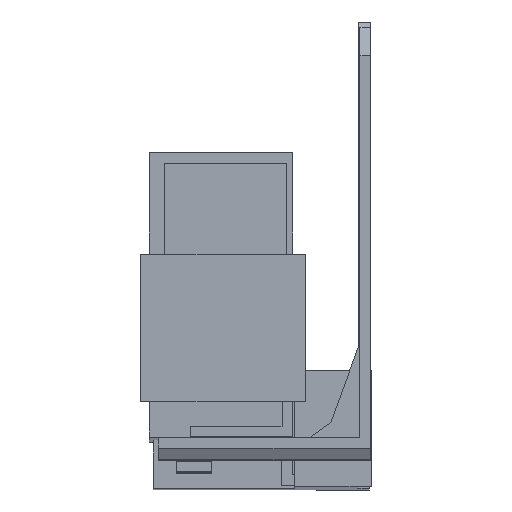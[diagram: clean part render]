
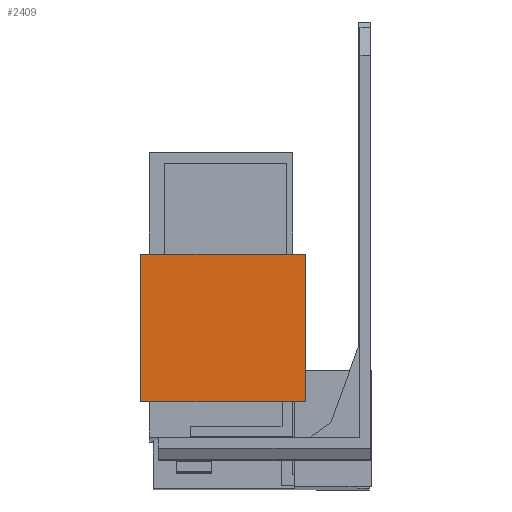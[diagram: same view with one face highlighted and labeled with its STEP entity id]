
A CAD part, front view. The second image highlights one B-rep face of the part: STEP entity #2409.
In plain terms, the highlighted planar face has unit normal (0, -1, 0.003).
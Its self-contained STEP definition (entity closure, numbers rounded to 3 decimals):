
#27 = EDGE_CURVE ( 'NONE', #1836, #1711, #3795, .T. ) ;
#213 = EDGE_CURVE ( 'NONE', #1836, #1758, #1137, .T. ) ;
#227 = AXIS2_PLACEMENT_3D ( 'NONE', #1799, #1813, #1815 ) ;
#249 = EDGE_CURVE ( 'NONE', #1711, #2117, #1124, .T. ) ;
#620 = EDGE_CURVE ( 'NONE', #1758, #2117, #1016, .T. ) ;
#729 = FACE_OUTER_BOUND ( 'NONE', #4756, .T. ) ;
#1015 = VECTOR ( 'NONE', #2966, 1000. ) ;
#1016 = LINE ( 'NONE', #2965, #1015 ) ;
#1124 = LINE ( 'NONE', #2462, #1154 ) ;
#1137 = LINE ( 'NONE', #2373, #1138 ) ;
#1138 = VECTOR ( 'NONE', #2375, 1000. ) ;
#1154 = VECTOR ( 'NONE', #2470, 1000. ) ;
#1711 = VERTEX_POINT ( 'NONE', #3153 ) ;
#1758 = VERTEX_POINT ( 'NONE', #3165 ) ;
#1793 = PLANE ( 'NONE',  #227 ) ;
#1799 = CARTESIAN_POINT ( 'NONE',  ( -9.3, -29.009, -40.322 ) ) ;
#1813 = DIRECTION ( 'NONE',  ( 0., -1., 0.003 ) ) ;
#1815 = DIRECTION ( 'NONE',  ( 1., 0., 0. ) ) ;
#1836 = VERTEX_POINT ( 'NONE', #3191 ) ;
#2117 = VERTEX_POINT ( 'NONE', #3354 ) ;
#2140 = CARTESIAN_POINT ( 'NONE',  ( -9.3, -29.009, -40.322 ) ) ;
#2373 = CARTESIAN_POINT ( 'NONE',  ( -9.3, -29.009, -40.322 ) ) ;
#2375 = DIRECTION ( 'NONE',  ( -1., 0., 0. ) ) ;
#2409 = ADVANCED_FACE ( 'NONE', ( #729 ), #1793, .T. ) ;
#2462 = CARTESIAN_POINT ( 'NONE',  ( -9.3, -28.952, -19.322 ) ) ;
#2470 = DIRECTION ( 'NONE',  ( -1., 0., 0. ) ) ;
#2965 = CARTESIAN_POINT ( 'NONE',  ( -32.7, -29.009, -40.322 ) ) ;
#2966 = DIRECTION ( 'NONE',  ( 0., 0.003, 1. ) ) ;
#3153 = CARTESIAN_POINT ( 'NONE',  ( -9.3, -28.952, -19.322 ) ) ;
#3165 = CARTESIAN_POINT ( 'NONE',  ( -32.7, -29.009, -40.322 ) ) ;
#3191 = CARTESIAN_POINT ( 'NONE',  ( -9.3, -29.009, -40.322 ) ) ;
#3354 = CARTESIAN_POINT ( 'NONE',  ( -32.7, -28.952, -19.322 ) ) ;
#3737 = DIRECTION ( 'NONE',  ( 0., 0.003, 1. ) ) ;
#3788 = VECTOR ( 'NONE', #3737, 1000. ) ;
#3795 = LINE ( 'NONE', #2140, #3788 ) ;
#4509 = ORIENTED_EDGE ( 'NONE', *, *, #249, .T. ) ;
#4510 = ORIENTED_EDGE ( 'NONE', *, *, #620, .F. ) ;
#4511 = ORIENTED_EDGE ( 'NONE', *, *, #213, .F. ) ;
#4512 = ORIENTED_EDGE ( 'NONE', *, *, #27, .T. ) ;
#4756 = EDGE_LOOP ( 'NONE', ( #4509, #4510, #4511, #4512 ) ) ;
